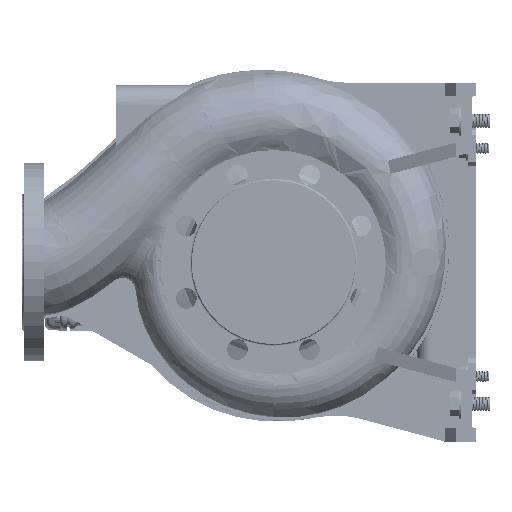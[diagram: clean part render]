
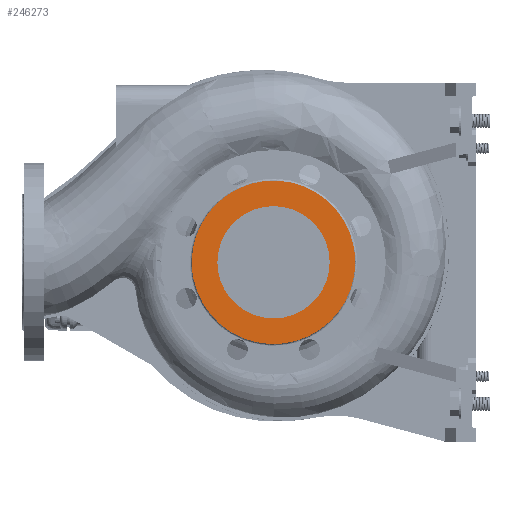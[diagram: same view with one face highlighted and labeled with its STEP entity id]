
A CAD part, left-side view. The second image highlights one B-rep face of the part: STEP entity #246273.
In plain terms, the highlighted planar face has unit normal (-1, 0, 0).
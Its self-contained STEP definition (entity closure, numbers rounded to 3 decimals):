
#2118 = CARTESIAN_POINT ( 'NONE',  ( -140., -84.615, -35.049 ) ) ;
#5808 = CARTESIAN_POINT ( 'NONE',  ( -140., 89.395, 17.782 ) ) ;
#8301 = CARTESIAN_POINT ( 'NONE',  ( -140., -91., 0. ) ) ;
#10771 = CARTESIAN_POINT ( 'NONE',  ( -140., 84.208, -34.88 ) ) ;
#18086 = ORIENTED_EDGE ( 'NONE', *, *, #247821, .F. ) ;
#20959 = CARTESIAN_POINT ( 'NONE',  ( -140., 17.866, 89.828 ) ) ;
#28430 = CARTESIAN_POINT ( 'NONE',  ( -140., 79.748, -44.311 ) ) ;
#29623 = CARTESIAN_POINT ( 'NONE',  ( -140., -84.615, 35.049 ) ) ;
#31800 = VERTEX_POINT ( 'NONE', #186798 ) ;
#34506 = AXIS2_PLACEMENT_3D ( 'NONE', #203768, #188632, #206250 ) ;
#44850 = CARTESIAN_POINT ( 'NONE',  ( -140., 91., -2.977 ) ) ;
#46089 = CARTESIAN_POINT ( 'NONE',  ( -140., -17.868, -89.827 ) ) ;
#47325 = CARTESIAN_POINT ( 'NONE',  ( -140., 50.638, -75.785 ) ) ;
#48704 = DIRECTION ( 'NONE',  ( 0., 0., 1. ) ) ;
#49769 = CARTESIAN_POINT ( 'NONE',  ( -140., -35.049, 84.615 ) ) ;
#57034 = ORIENTED_EDGE ( 'NONE', *, *, #66922, .F. ) ;
#58693 = CARTESIAN_POINT ( 'NONE',  ( -140., 50.638, 75.785 ) ) ;
#61227 = CARTESIAN_POINT ( 'NONE',  ( -140., 91., 0. ) ) ;
#62973 = CARTESIAN_POINT ( 'NONE',  ( -140., -91., 0. ) ) ;
#66922 = EDGE_CURVE ( 'NONE', #107751, #31800, #248921, .T. ) ;
#68013 = AXIS2_PLACEMENT_3D ( 'NONE', #88907, #187041, #48704 ) ;
#77589 = CARTESIAN_POINT ( 'NONE',  ( -140., 79.748, 44.311 ) ) ;
#78846 = CARTESIAN_POINT ( 'NONE',  ( -140., -76.151, -50.883 ) ) ;
#87535 = CARTESIAN_POINT ( 'NONE',  ( -140., 17.866, -89.828 ) ) ;
#88907 = CARTESIAN_POINT ( 'NONE',  ( -140., 0., 0. ) ) ;
#96475 = CARTESIAN_POINT ( 'NONE',  ( -140., 87.222, 26.458 ) ) ;
#102674 = CARTESIAN_POINT ( 'NONE',  ( -140., -17.868, 89.827 ) ) ;
#103921 = CARTESIAN_POINT ( 'NONE',  ( -140., -91., 5.956 ) ) ;
#106703 = AXIS2_PLACEMENT_3D ( 'NONE', #234796, #118997, #236041 ) ;
#107751 = VERTEX_POINT ( 'NONE', #129677 ) ;
#116613 = CARTESIAN_POINT ( 'NONE',  ( -140., -91., 0. ) ) ;
#118997 = DIRECTION ( 'NONE',  ( -1., 0., 0. ) ) ;
#121585 = CARTESIAN_POINT ( 'NONE',  ( -140., 42.966, -80.384 ) ) ;
#122816 = CARTESIAN_POINT ( 'NONE',  ( -140., 32.194, -85.479 ) ) ;
#123262 = EDGE_CURVE ( 'NONE', #164900, #128820, #160501, .T. ) ;
#125280 = CARTESIAN_POINT ( 'NONE',  ( -140., 87.222, -26.458 ) ) ;
#128250 = PLANE ( 'NONE',  #34506 ) ;
#128820 = VERTEX_POINT ( 'NONE', #61227 ) ;
#129502 = FACE_BOUND ( 'NONE', #143233, .T. ) ;
#129677 = CARTESIAN_POINT ( 'NONE',  ( -140., 0., -62.5 ) ) ;
#136374 = ORIENTED_EDGE ( 'NONE', *, *, #189225, .F. ) ;
#142943 = CARTESIAN_POINT ( 'NONE',  ( -140., 90.707, -8.934 ) ) ;
#143233 = EDGE_LOOP ( 'NONE', ( #18086, #57034 ) ) ;
#154373 = CARTESIAN_POINT ( 'NONE',  ( -140., 65.552, 63.451 ) ) ;
#154614 = B_SPLINE_CURVE_WITH_KNOTS ( 'NONE', 3,
 ( #156855, #197106, #178215, #5808, #96475, #173267, #77589, #195852, #154373, #231124, #58693, #212215, #193372, #20959, #233611, #102674, #49769, #218423, #161828, #198330, #29623, #181949, #103921, #8301 ),
 .UNSPECIFIED., .F., .F.,
 ( 4, 1, 1, 1, 1, 1, 1, 1, 1, 1, 1, 1, 1, 1, 1, 1, 1, 1, 1, 1, 1, 4 ),
 ( 0., 0.009, 0.018, 0.027, 0.036, 0.045, 0.058, 0.072, 0.081, 0.09, 0.099, 0.108, 0.126, 0.143, 0.161, 0.179, 0.197, 0.215, 0.233, 0.251, 0.269, 0.287 ),
 .UNSPECIFIED. ) ;
#155635 = CARTESIAN_POINT ( 'NONE',  ( -140., -64.762, -64.762 ) ) ;
#156855 = CARTESIAN_POINT ( 'NONE',  ( -140., 91., 0. ) ) ;
#160501 = B_SPLINE_CURVE_WITH_KNOTS ( 'NONE', 3,
 ( #116613, #193405, #174533, #2118, #78846, #155635, #180741, #220934, #46089, #219691, #87535, #122816, #121585, #47325, #199590, #239817, #217218, #28430, #10771, #125280, #164319, #142943, #44850, #222164 ),
 .UNSPECIFIED., .F., .F.,
 ( 4, 1, 1, 1, 1, 1, 1, 1, 1, 1, 1, 1, 1, 1, 1, 1, 1, 1, 1, 1, 1, 4 ),
 ( 0., 0.018, 0.036, 0.054, 0.072, 0.09, 0.108, 0.126, 0.144, 0.161, 0.179, 0.188, 0.197, 0.206, 0.215, 0.229, 0.242, 0.251, 0.26, 0.269, 0.278, 0.287 ),
 .UNSPECIFIED. ) ;
#161828 = CARTESIAN_POINT ( 'NONE',  ( -140., -64.762, 64.762 ) ) ;
#164319 = CARTESIAN_POINT ( 'NONE',  ( -140., 89.395, -17.782 ) ) ;
#164900 = VERTEX_POINT ( 'NONE', #62973 ) ;
#167265 = FACE_OUTER_BOUND ( 'NONE', #193579, .T. ) ;
#171745 = ORIENTED_EDGE ( 'NONE', *, *, #123262, .F. ) ;
#173267 = CARTESIAN_POINT ( 'NONE',  ( -140., 84.208, 34.88 ) ) ;
#174533 = CARTESIAN_POINT ( 'NONE',  ( -140., -89.827, -17.868 ) ) ;
#178215 = CARTESIAN_POINT ( 'NONE',  ( -140., 90.707, 8.934 ) ) ;
#180741 = CARTESIAN_POINT ( 'NONE',  ( -140., -50.883, -76.151 ) ) ;
#181949 = CARTESIAN_POINT ( 'NONE',  ( -140., -89.827, 17.868 ) ) ;
#186798 = CARTESIAN_POINT ( 'NONE',  ( -140., 0., 62.5 ) ) ;
#187041 = DIRECTION ( 'NONE',  ( -1., 0., 0. ) ) ;
#188632 = DIRECTION ( 'NONE',  ( 1., 0., 0. ) ) ;
#189225 = EDGE_CURVE ( 'NONE', #128820, #164900, #154614, .T. ) ;
#193372 = CARTESIAN_POINT ( 'NONE',  ( -140., 32.194, 85.479 ) ) ;
#193405 = CARTESIAN_POINT ( 'NONE',  ( -140., -91., -5.956 ) ) ;
#193579 = EDGE_LOOP ( 'NONE', ( #171745, #136374 ) ) ;
#195852 = CARTESIAN_POINT ( 'NONE',  ( -140., 73.357, 54.405 ) ) ;
#197106 = CARTESIAN_POINT ( 'NONE',  ( -140., 91., 2.977 ) ) ;
#198330 = CARTESIAN_POINT ( 'NONE',  ( -140., -76.151, 50.883 ) ) ;
#199590 = CARTESIAN_POINT ( 'NONE',  ( -140., 57.823, -70.457 ) ) ;
#203768 = CARTESIAN_POINT ( 'NONE',  ( -140., -92.092, 92.181 ) ) ;
#206250 = DIRECTION ( 'NONE',  ( 0., 0., -1. ) ) ;
#212215 = CARTESIAN_POINT ( 'NONE',  ( -140., 42.966, 80.384 ) ) ;
#217218 = CARTESIAN_POINT ( 'NONE',  ( -140., 73.357, -54.405 ) ) ;
#218423 = CARTESIAN_POINT ( 'NONE',  ( -140., -50.883, 76.151 ) ) ;
#219691 = CARTESIAN_POINT ( 'NONE',  ( -140., 0.001, -91.586 ) ) ;
#219714 = CIRCLE ( 'NONE', #106703, 62.5 ) ;
#220934 = CARTESIAN_POINT ( 'NONE',  ( -140., -35.049, -84.615 ) ) ;
#222164 = CARTESIAN_POINT ( 'NONE',  ( -140., 91., 0. ) ) ;
#231124 = CARTESIAN_POINT ( 'NONE',  ( -140., 57.823, 70.457 ) ) ;
#233611 = CARTESIAN_POINT ( 'NONE',  ( -140., 0.001, 91.586 ) ) ;
#234796 = CARTESIAN_POINT ( 'NONE',  ( -140., 0., 0. ) ) ;
#236041 = DIRECTION ( 'NONE',  ( 0., 0., 1. ) ) ;
#239817 = CARTESIAN_POINT ( 'NONE',  ( -140., 65.552, -63.451 ) ) ;
#246273 = ADVANCED_FACE ( 'NONE', ( #167265, #129502 ), #128250, .F. ) ;
#247821 = EDGE_CURVE ( 'NONE', #31800, #107751, #219714, .T. ) ;
#248921 = CIRCLE ( 'NONE', #68013, 62.5 ) ;
